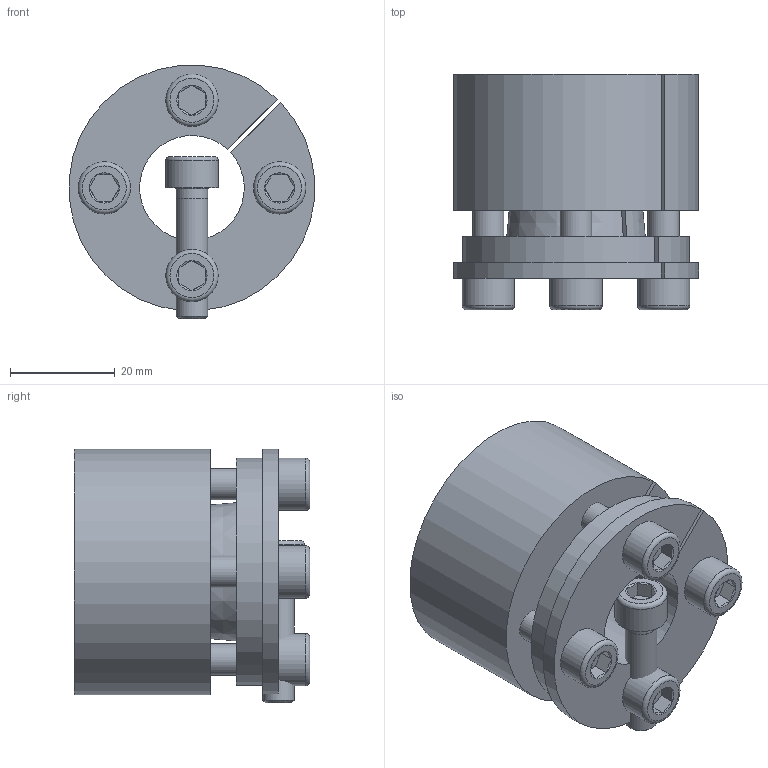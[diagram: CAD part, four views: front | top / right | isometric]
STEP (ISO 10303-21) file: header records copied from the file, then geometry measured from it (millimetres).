
FILE_DESCRIPTION( ( 'Unknown' ), '1' );
FILE_NAME( 'C:/Dokumente und Einstellungen/Sven/Desktop/homepage/cad - homepage/KBS70/KBS 70 - 20 x 47.stp', 'Unknown', ( 'Unknown' ), ( 'Unknown' ), 'XStep 1.0', 'Unknown', ' ' );
FILE_SCHEMA( ( 'automotive_design' ) );
Length unit declared in the file: millimetre
Products named in the file (3): Assem1; KBS 70 - 20 x 47; ISO EN DIN 4762 M6x25
Bounding box: 46.86 x 45 x 48.44 mm (x, y, z)
Volume: 93040.7 mm3; surface area: 36371.7 mm2
Topology: 7 solids, 7 shells, 169 faces, 347 edges, 212 vertices
Faces by surface type: plane 76, cylinder 44, cone 39, torus 10
Full cylindrical faces by diameter (mm): 5 x5, 6 x26, 10 x5
Entity records: 1522 total; most frequent: CARTESIAN_POINT 261, DIRECTION 228, ORIENTED_EDGE 174, AXIS2_PLACEMENT_3D 98, EDGE_CURVE 87, EDGE_LOOP 82, VERTEX_POINT 63, FACE_OUTER_BOUND 61
